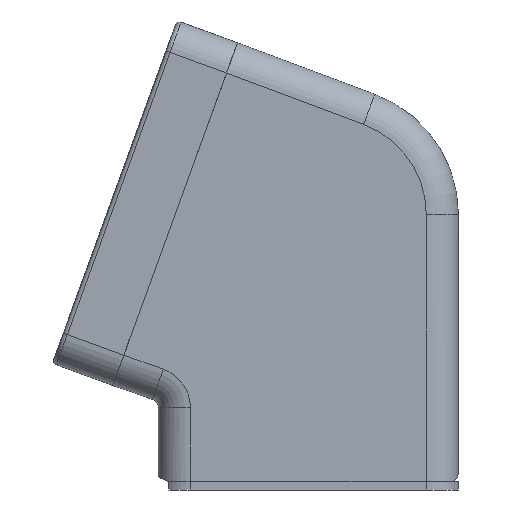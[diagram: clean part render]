
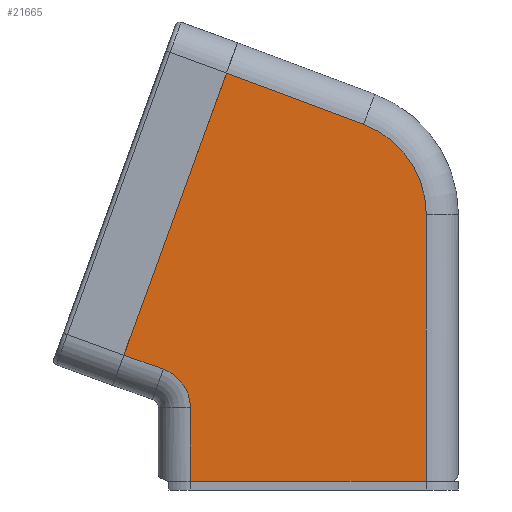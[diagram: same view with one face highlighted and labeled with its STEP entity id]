
A CAD part, left-side view. The second image highlights one B-rep face of the part: STEP entity #21665.
In plain terms, the highlighted planar face has unit normal (-1, 0, 0).
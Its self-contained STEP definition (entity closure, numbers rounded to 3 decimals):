
#46 = DIRECTION ( 'NONE',  ( 0., -0.342, 0.94 ) ) ;
#86 = VERTEX_POINT ( 'NONE', #5311 ) ;
#199 = VERTEX_POINT ( 'NONE', #4325 ) ;
#355 = LINE ( 'NONE', #8600, #5670 ) ;
#1698 = DIRECTION ( 'NONE',  ( -1., 0., 0. ) ) ;
#1850 = DIRECTION ( 'NONE',  ( 0., 0., 1. ) ) ;
#1854 = CARTESIAN_POINT ( 'NONE',  ( -70., 33.829, 26.179 ) ) ;
#2031 = CIRCLE ( 'NONE', #6978, 22.5 ) ;
#2284 = DIRECTION ( 'NONE',  ( 0., 0.937, 0.35 ) ) ;
#2287 = CARTESIAN_POINT ( 'NONE',  ( -70., 43.026, 29.436 ) ) ;
#3893 = CARTESIAN_POINT ( 'NONE',  ( -70., 37., 17.224 ) ) ;
#3970 = VECTOR ( 'NONE', #8249, 1000. ) ;
#4290 = EDGE_CURVE ( 'NONE', #11301, #199, #2031, .T. ) ;
#4325 = CARTESIAN_POINT ( 'NONE',  ( -70., -12.88, 83.263 ) ) ;
#4616 = ORIENTED_EDGE ( 'NONE', *, *, #20372, .T. ) ;
#4822 = CARTESIAN_POINT ( 'NONE',  ( -70., 33.829, 26.179 ) ) ;
#5287 = LINE ( 'NONE', #6821, #19955 ) ;
#5311 = CARTESIAN_POINT ( 'NONE',  ( -70., -27.5, 0. ) ) ;
#5373 = EDGE_CURVE ( 'NONE', #11964, #8562, #14838, .T. ) ;
#5670 = VECTOR ( 'NONE', #8255, 1000. ) ;
#5710 = CIRCLE ( 'NONE', #22174, 9.5 ) ;
#5906 = LINE ( 'NONE', #4822, #20569 ) ;
#5907 = DIRECTION ( 'NONE',  ( 0., 0., 1. ) ) ;
#6821 = CARTESIAN_POINT ( 'NONE',  ( -70., 15.5, 0. ) ) ;
#6978 = AXIS2_PLACEMENT_3D ( 'NONE', #13325, #1698, #15255 ) ;
#6989 = ORIENTED_EDGE ( 'NONE', *, *, #14325, .T. ) ;
#7522 = LINE ( 'NONE', #23204, #21578 ) ;
#8160 = CARTESIAN_POINT ( 'NONE',  ( -70., 27.5, 0. ) ) ;
#8249 = DIRECTION ( 'NONE',  ( 0., 0., -1. ) ) ;
#8255 = DIRECTION ( 'NONE',  ( 0., 0., 1. ) ) ;
#8309 = CARTESIAN_POINT ( 'NONE',  ( -70., -27.5, 62.188 ) ) ;
#8562 = VERTEX_POINT ( 'NONE', #8160 ) ;
#8600 = CARTESIAN_POINT ( 'NONE',  ( -70., -27.5, 62.188 ) ) ;
#9399 = VERTEX_POINT ( 'NONE', #1854 ) ;
#9897 = EDGE_CURVE ( 'NONE', #13089, #22486, #7522, .T. ) ;
#11229 = ORIENTED_EDGE ( 'NONE', *, *, #9897, .F. ) ;
#11301 = VERTEX_POINT ( 'NONE', #8309 ) ;
#11419 = EDGE_CURVE ( 'NONE', #86, #8562, #5287, .T. ) ;
#11886 = EDGE_CURVE ( 'NONE', #199, #22486, #19612, .T. ) ;
#11964 = VERTEX_POINT ( 'NONE', #23610 ) ;
#12830 = ORIENTED_EDGE ( 'NONE', *, *, #11886, .T. ) ;
#13089 = VERTEX_POINT ( 'NONE', #2287 ) ;
#13179 = ORIENTED_EDGE ( 'NONE', *, *, #4290, .T. ) ;
#13290 = FACE_OUTER_BOUND ( 'NONE', #19823, .T. ) ;
#13325 = CARTESIAN_POINT ( 'NONE',  ( -70., -5., 62.188 ) ) ;
#13481 = DIRECTION ( 'NONE',  ( -1., 0., 0. ) ) ;
#14325 = EDGE_CURVE ( 'NONE', #13089, #9399, #5906, .T. ) ;
#14453 = CARTESIAN_POINT ( 'NONE',  ( -70., 19.085, 95.214 ) ) ;
#14838 = LINE ( 'NONE', #15879, #3970 ) ;
#15255 = DIRECTION ( 'NONE',  ( 0., 0., 1. ) ) ;
#15830 = CARTESIAN_POINT ( 'NONE',  ( -70., 19.146, 95.237 ) ) ;
#15879 = CARTESIAN_POINT ( 'NONE',  ( -70., 27.5, 1.61 ) ) ;
#17330 = DIRECTION ( 'NONE',  ( 1., 0., 0. ) ) ;
#18203 = DIRECTION ( 'NONE',  ( 0., -0.943, -0.334 ) ) ;
#19018 = VECTOR ( 'NONE', #2284, 1000. ) ;
#19612 = LINE ( 'NONE', #15830, #19018 ) ;
#19823 = EDGE_LOOP ( 'NONE', ( #24113, #21275, #23983, #4616, #13179, #12830, #11229, #6989 ) ) ;
#19955 = VECTOR ( 'NONE', #20205, 1000. ) ;
#20205 = DIRECTION ( 'NONE',  ( 0., 1., 0. ) ) ;
#20372 = EDGE_CURVE ( 'NONE', #86, #11301, #355, .T. ) ;
#20569 = VECTOR ( 'NONE', #18203, 1000. ) ;
#21275 = ORIENTED_EDGE ( 'NONE', *, *, #5373, .T. ) ;
#21578 = VECTOR ( 'NONE', #46, 1000. ) ;
#21665 = ADVANCED_FACE ( 'NONE', ( #13290 ), #22869, .T. ) ;
#22174 = AXIS2_PLACEMENT_3D ( 'NONE', #3893, #17330, #5907 ) ;
#22486 = VERTEX_POINT ( 'NONE', #14453 ) ;
#22675 = EDGE_CURVE ( 'NONE', #9399, #11964, #5710, .T. ) ;
#22869 = PLANE ( 'NONE',  #23895 ) ;
#23204 = CARTESIAN_POINT ( 'NONE',  ( -70., 17.546, 99.443 ) ) ;
#23610 = CARTESIAN_POINT ( 'NONE',  ( -70., 27.5, 17.224 ) ) ;
#23895 = AXIS2_PLACEMENT_3D ( 'NONE', #24940, #13481, #1850 ) ;
#23983 = ORIENTED_EDGE ( 'NONE', *, *, #11419, .F. ) ;
#24113 = ORIENTED_EDGE ( 'NONE', *, *, #22675, .T. ) ;
#24940 = CARTESIAN_POINT ( 'NONE',  ( -70., 34., 1.61 ) ) ;
